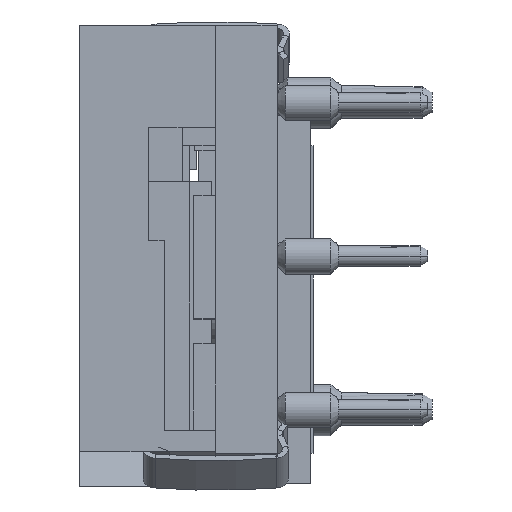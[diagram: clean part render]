
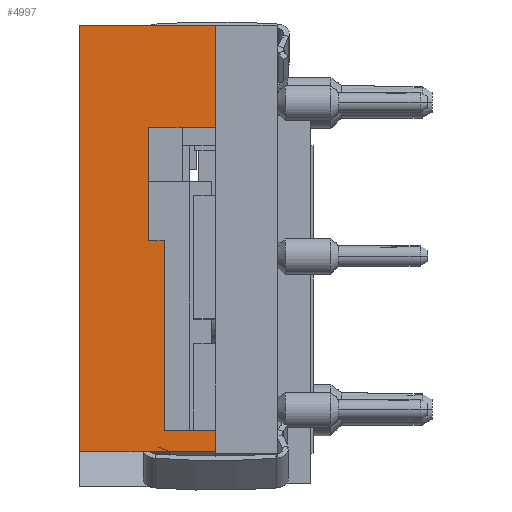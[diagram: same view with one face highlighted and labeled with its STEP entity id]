
A CAD part, left-side view. The second image highlights one B-rep face of the part: STEP entity #4997.
In plain terms, the highlighted planar face has unit normal (-1, 0, 0).
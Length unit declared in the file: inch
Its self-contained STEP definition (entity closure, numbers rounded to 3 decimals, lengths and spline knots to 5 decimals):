
#3762=DIRECTION('',(0.,0.,1.));
#3763=VECTOR('',#3762,0.832);
#3764=CARTESIAN_POINT('',(0.,0.,-0.9));
#3765=LINE('',#3764,#3763);
#3808=DIRECTION('',(0.,1.,0.));
#3809=VECTOR('',#3808,0.13);
#3810=CARTESIAN_POINT('',(0.,0.135,-0.702));
#3811=LINE('',#3810,#3809);
#3812=DIRECTION('',(0.,0.,1.));
#3813=VECTOR('',#3812,0.22213);
#3814=CARTESIAN_POINT('',(0.,0.135,-0.702));
#3815=LINE('',#3814,#3813);
#3816=DIRECTION('',(0.,-1.,0.));
#3817=VECTOR('',#3816,0.03);
#3818=CARTESIAN_POINT('',(0.,0.165,-0.47987));
#3819=LINE('',#3818,#3817);
#3820=DIRECTION('',(0.,0.,-1.));
#3821=VECTOR('',#3820,0.36987);
#3822=CARTESIAN_POINT('',(0.,0.165,-0.11));
#3823=LINE('',#3822,#3821);
#3848=DIRECTION('',(0.,-1.,0.));
#3849=VECTOR('',#3848,0.265);
#3850=CARTESIAN_POINT('',(0.,0.265,-0.9));
#3851=LINE('',#3850,#3849);
#3966=DIRECTION('',(0.,0.,1.));
#3967=VECTOR('',#3966,0.042);
#3968=CARTESIAN_POINT('',(0.,0.265,-0.11));
#3969=LINE('',#3968,#3967);
#4448=DIRECTION('',(0.,-1.,0.));
#4449=VECTOR('',#4448,0.1);
#4450=CARTESIAN_POINT('',(0.,0.265,-0.11));
#4451=LINE('',#4450,#4449);
#4500=DIRECTION('',(0.,1.,0.));
#4501=VECTOR('',#4500,0.08997);
#4502=CARTESIAN_POINT('',(0.,0.17503,-0.068));
#4503=LINE('',#4502,#4501);
#4504=DIRECTION('',(0.,1.,0.));
#4505=VECTOR('',#4504,0.17503);
#4506=CARTESIAN_POINT('',(0.,0.,-0.068));
#4507=LINE('',#4506,#4505);
#4564=DIRECTION('',(0.,0.,1.));
#4565=VECTOR('',#4564,0.198);
#4566=CARTESIAN_POINT('',(0.,0.265,-0.9));
#4567=LINE('',#4566,#4565);
#4584=CARTESIAN_POINT('',(0.,0.265,-0.11));
#4586=VERTEX_POINT('',#4584);
#4616=CARTESIAN_POINT('',(0.,0.165,-0.11));
#4617=VERTEX_POINT('',#4616);
#4622=CARTESIAN_POINT('',(0.,0.165,-0.47987));
#4623=CARTESIAN_POINT('',(0.,0.135,-0.47987));
#4624=VERTEX_POINT('',#4622);
#4625=VERTEX_POINT('',#4623);
#4691=CARTESIAN_POINT('',(0.,0.265,-0.068));
#4693=VERTEX_POINT('',#4691);
#4702=CARTESIAN_POINT('',(0.,0.,-0.068));
#4704=VERTEX_POINT('',#4702);
#4718=CARTESIAN_POINT('',(0.,0.,-0.9));
#4719=VERTEX_POINT('',#4718);
#4750=CARTESIAN_POINT('',(0.,0.17503,-0.068));
#4751=VERTEX_POINT('',#4750);
#4772=CARTESIAN_POINT('',(0.,0.265,-0.9));
#4773=CARTESIAN_POINT('',(0.,0.265,-0.702));
#4774=VERTEX_POINT('',#4772);
#4775=VERTEX_POINT('',#4773);
#4780=CARTESIAN_POINT('',(0.,0.135,-0.702));
#4782=VERTEX_POINT('',#4780);
#4971=CARTESIAN_POINT('',(0.,0.,-0.9));
#4972=DIRECTION('',(-1.,0.,0.));
#4973=DIRECTION('',(0.,0.,1.));
#4974=AXIS2_PLACEMENT_3D('',#4971,#4972,#4973);
#4975=PLANE('',#4974);
#4977=ORIENTED_EDGE('',*,*,#4976,.F.);
#4979=ORIENTED_EDGE('',*,*,#4978,.T.);
#4980=ORIENTED_EDGE('',*,*,#4962,.F.);
#4981=ORIENTED_EDGE('',*,*,#4947,.T.);
#4983=ORIENTED_EDGE('',*,*,#4982,.F.);
#4985=ORIENTED_EDGE('',*,*,#4984,.F.);
#4987=ORIENTED_EDGE('',*,*,#4986,.F.);
#4989=ORIENTED_EDGE('',*,*,#4988,.T.);
#4991=ORIENTED_EDGE('',*,*,#4990,.F.);
#4993=ORIENTED_EDGE('',*,*,#4992,.F.);
#4994=ORIENTED_EDGE('',*,*,#4883,.F.);
#4995=EDGE_LOOP('',(#4977,#4979,#4980,#4981,#4983,#4985,#4987,#4989,#4991,#4993,
#4994));
#4996=FACE_OUTER_BOUND('',#4995,.F.);
#4997=ADVANCED_FACE('',(#4996),#4975,.T.);
#4883=EDGE_CURVE('',#4719,#4704,#3765,.T.);
#4947=EDGE_CURVE('',#4782,#4625,#3815,.T.);
#4962=EDGE_CURVE('',#4782,#4775,#3811,.T.);
#4976=EDGE_CURVE('',#4774,#4719,#3851,.T.);
#4978=EDGE_CURVE('',#4774,#4775,#4567,.T.);
#4982=EDGE_CURVE('',#4624,#4625,#3819,.T.);
#4984=EDGE_CURVE('',#4617,#4624,#3823,.T.);
#4986=EDGE_CURVE('',#4586,#4617,#4451,.T.);
#4988=EDGE_CURVE('',#4586,#4693,#3969,.T.);
#4990=EDGE_CURVE('',#4751,#4693,#4503,.T.);
#4992=EDGE_CURVE('',#4704,#4751,#4507,.T.);
